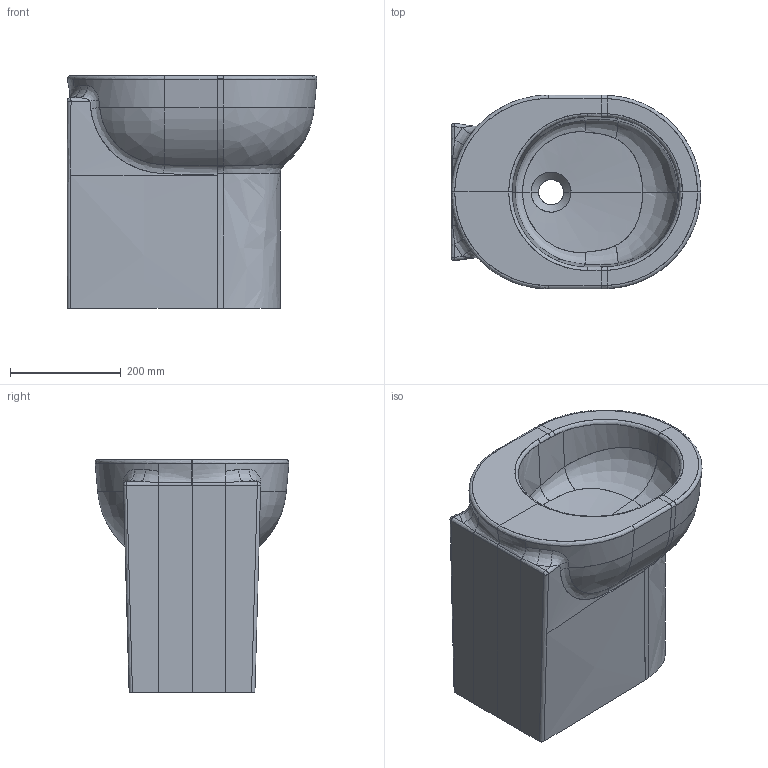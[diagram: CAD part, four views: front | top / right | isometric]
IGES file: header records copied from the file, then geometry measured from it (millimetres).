
Start section: START RECORD GO HERE.
Global section: file name: ART 5213 Bidet M2 45.igs; native system: DASSAULT SYSTEMES CATIA V5 R19 - www.3ds.com; preprocessor: CATIA Version 5 Release 19 SP 5 ; author: Luca; organization: DESKTOP-V7SON24; date: 20201023.093258; units: millimetre
Bounding box: 449.94 x 349.16 x 419.83 mm (x, y, z)
Surface area: 732850.6 mm2 (no closed solid volume)
Topology: 0 solids, 0 shells, 108 faces, 536 edges, 534 vertices
Faces by surface type: bspline 88, plane 14, revolution 4, extrusion 2
